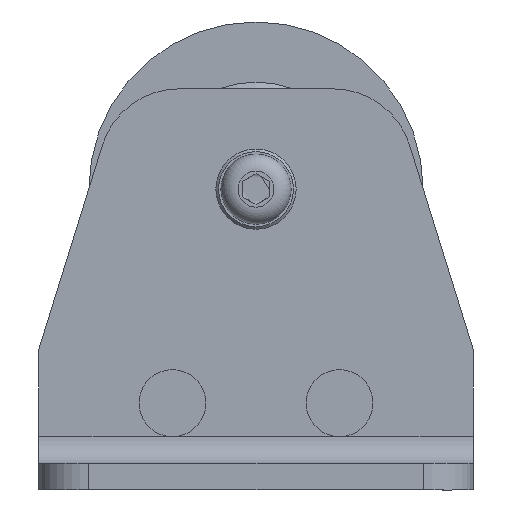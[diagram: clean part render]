
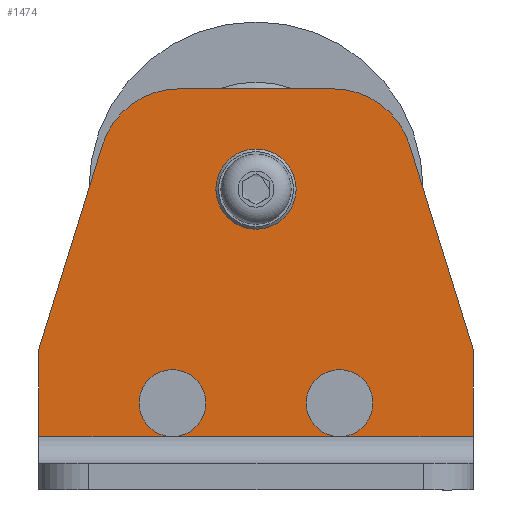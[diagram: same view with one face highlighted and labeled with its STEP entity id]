
A CAD part, front view. The second image highlights one B-rep face of the part: STEP entity #1474.
In plain terms, the highlighted planar face has unit normal (0, -1, 0) as drawn and (0, 0, 1) by its records, which use the part's own axes.
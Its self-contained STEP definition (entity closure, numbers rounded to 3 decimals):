
#119=FACE_BOUND('',#287,.T.);
#147=PLANE('',#1755);
#199=FACE_OUTER_BOUND('',#286,.T.);
#286=EDGE_LOOP('',(#1154,#1155,#1156,#1157,#1158,#1159,#1160,#1161,#1162,
#1163,#1164,#1165,#1166,#1167));
#287=EDGE_LOOP('',(#1168));
#384=LINE('',#2521,#478);
#385=LINE('',#2523,#479);
#386=LINE('',#2524,#480);
#389=LINE('',#2530,#483);
#397=LINE('',#2568,#491);
#401=LINE('',#2577,#495);
#404=LINE('',#2584,#498);
#405=LINE('',#2586,#499);
#478=VECTOR('',#2012,10.);
#479=VECTOR('',#2013,10.);
#480=VECTOR('',#2014,10.);
#483=VECTOR('',#2019,10.);
#491=VECTOR('',#2061,10.);
#495=VECTOR('',#2071,10.);
#498=VECTOR('',#2080,10.);
#499=VECTOR('',#2083,10.);
#560=CIRCLE('',#1740,5.);
#561=CIRCLE('',#1741,5.);
#562=CIRCLE('',#1743,5.);
#563=CIRCLE('',#1744,5.);
#564=CIRCLE('',#1746,3.25);
#565=CIRCLE('',#1749,12.);
#566=CIRCLE('',#1752,12.);
#675=VERTEX_POINT('',#2511);
#676=VERTEX_POINT('',#2515);
#677=VERTEX_POINT('',#2520);
#678=VERTEX_POINT('',#2522);
#680=VERTEX_POINT('',#2528);
#689=VERTEX_POINT('',#2552);
#690=VERTEX_POINT('',#2557);
#691=VERTEX_POINT('',#2562);
#692=VERTEX_POINT('',#2566);
#693=VERTEX_POINT('',#2567);
#694=VERTEX_POINT('',#2572);
#695=VERTEX_POINT('',#2576);
#696=VERTEX_POINT('',#2580);
#835=EDGE_CURVE('',#677,#676,#384,.T.);
#836=EDGE_CURVE('',#678,#677,#385,.T.);
#837=EDGE_CURVE('',#675,#678,#386,.T.);
#840=EDGE_CURVE('',#680,#676,#389,.T.);
#853=EDGE_CURVE('',#677,#689,#560,.T.);
#854=EDGE_CURVE('',#689,#677,#561,.T.);
#856=EDGE_CURVE('',#678,#690,#562,.T.);
#857=EDGE_CURVE('',#690,#678,#563,.T.);
#859=EDGE_CURVE('',#691,#691,#564,.T.);
#860=EDGE_CURVE('',#692,#693,#397,.T.);
#863=EDGE_CURVE('',#693,#694,#565,.T.);
#865=EDGE_CURVE('',#694,#695,#401,.T.);
#867=EDGE_CURVE('',#695,#696,#566,.T.);
#869=EDGE_CURVE('',#696,#680,#404,.T.);
#870=EDGE_CURVE('',#675,#692,#405,.T.);
#1154=ORIENTED_EDGE('',*,*,#835,.T.);
#1155=ORIENTED_EDGE('',*,*,#840,.F.);
#1156=ORIENTED_EDGE('',*,*,#869,.F.);
#1157=ORIENTED_EDGE('',*,*,#867,.F.);
#1158=ORIENTED_EDGE('',*,*,#865,.F.);
#1159=ORIENTED_EDGE('',*,*,#863,.F.);
#1160=ORIENTED_EDGE('',*,*,#860,.F.);
#1161=ORIENTED_EDGE('',*,*,#870,.F.);
#1162=ORIENTED_EDGE('',*,*,#837,.T.);
#1163=ORIENTED_EDGE('',*,*,#856,.T.);
#1164=ORIENTED_EDGE('',*,*,#857,.T.);
#1165=ORIENTED_EDGE('',*,*,#836,.T.);
#1166=ORIENTED_EDGE('',*,*,#853,.T.);
#1167=ORIENTED_EDGE('',*,*,#854,.T.);
#1168=ORIENTED_EDGE('',*,*,#859,.T.);
#1474=ADVANCED_FACE('',(#199,#119),#147,.T.);
#1740=AXIS2_PLACEMENT_3D('',#2554,#2043,#2044);
#1741=AXIS2_PLACEMENT_3D('',#2555,#2045,#2046);
#1743=AXIS2_PLACEMENT_3D('',#2559,#2050,#2051);
#1744=AXIS2_PLACEMENT_3D('',#2560,#2052,#2053);
#1746=AXIS2_PLACEMENT_3D('',#2564,#2057,#2058);
#1749=AXIS2_PLACEMENT_3D('',#2573,#2066,#2067);
#1752=AXIS2_PLACEMENT_3D('',#2581,#2075,#2076);
#1755=AXIS2_PLACEMENT_3D('',#2587,#2084,#2085);
#2012=DIRECTION('',(1.,0.,0.));
#2013=DIRECTION('',(1.,0.,0.));
#2014=DIRECTION('',(1.,0.,0.));
#2019=DIRECTION('',(0.,-1.,0.));
#2043=DIRECTION('center_axis',(0.,0.,-1.));
#2044=DIRECTION('ref_axis',(-1.,0.,0.));
#2045=DIRECTION('center_axis',(0.,0.,-1.));
#2046=DIRECTION('ref_axis',(-1.,0.,0.));
#2050=DIRECTION('center_axis',(0.,0.,-1.));
#2051=DIRECTION('ref_axis',(-1.,0.,0.));
#2052=DIRECTION('center_axis',(0.,0.,-1.));
#2053=DIRECTION('ref_axis',(-1.,0.,0.));
#2057=DIRECTION('center_axis',(0.,0.,-1.));
#2058=DIRECTION('ref_axis',(-1.,0.,0.));
#2061=DIRECTION('',(0.297,0.955,0.));
#2066=DIRECTION('center_axis',(0.,0.,-1.));
#2067=DIRECTION('ref_axis',(0.,1.,0.));
#2071=DIRECTION('',(1.,0.,0.));
#2075=DIRECTION('center_axis',(0.,0.,-1.));
#2076=DIRECTION('ref_axis',(0.955,0.297,0.));
#2080=DIRECTION('',(0.297,-0.955,0.));
#2083=DIRECTION('',(0.,1.,0.));
#2084=DIRECTION('center_axis',(0.,0.,1.));
#2085=DIRECTION('ref_axis',(1.,0.,0.));
#2511=CARTESIAN_POINT('',(-32.5,8.,4.));
#2515=CARTESIAN_POINT('',(32.5,8.,4.));
#2520=CARTESIAN_POINT('',(12.5,8.,4.));
#2521=CARTESIAN_POINT('',(16.25,8.,4.));
#2522=CARTESIAN_POINT('',(-12.5,8.,4.));
#2523=CARTESIAN_POINT('',(16.25,8.,4.));
#2524=CARTESIAN_POINT('',(16.25,8.,4.));
#2528=CARTESIAN_POINT('',(32.5,21.,4.));
#2530=CARTESIAN_POINT('',(32.5,0.,4.));
#2552=CARTESIAN_POINT('',(17.5,13.,4.));
#2554=CARTESIAN_POINT('Origin',(12.5,13.,4.));
#2555=CARTESIAN_POINT('Origin',(12.5,13.,4.));
#2557=CARTESIAN_POINT('',(-7.5,13.,4.));
#2559=CARTESIAN_POINT('Origin',(-12.5,13.,4.));
#2560=CARTESIAN_POINT('Origin',(-12.5,13.,4.));
#2562=CARTESIAN_POINT('',(3.25,45.,4.));
#2564=CARTESIAN_POINT('Origin',(0.,45.,4.));
#2566=CARTESIAN_POINT('',(-32.5,21.,4.));
#2567=CARTESIAN_POINT('',(-22.984,51.567,4.));
#2568=CARTESIAN_POINT('',(-22.984,51.567,4.));
#2572=CARTESIAN_POINT('',(-11.526,60.,4.));
#2573=CARTESIAN_POINT('Origin',(-11.526,48.,4.));
#2576=CARTESIAN_POINT('',(11.526,60.,4.));
#2577=CARTESIAN_POINT('',(11.526,60.,4.));
#2580=CARTESIAN_POINT('',(22.984,51.567,4.));
#2581=CARTESIAN_POINT('Origin',(11.526,48.,4.));
#2584=CARTESIAN_POINT('',(32.5,21.,4.));
#2586=CARTESIAN_POINT('',(-32.5,21.,4.));
#2587=CARTESIAN_POINT('Origin',(0.,26.189,4.));
